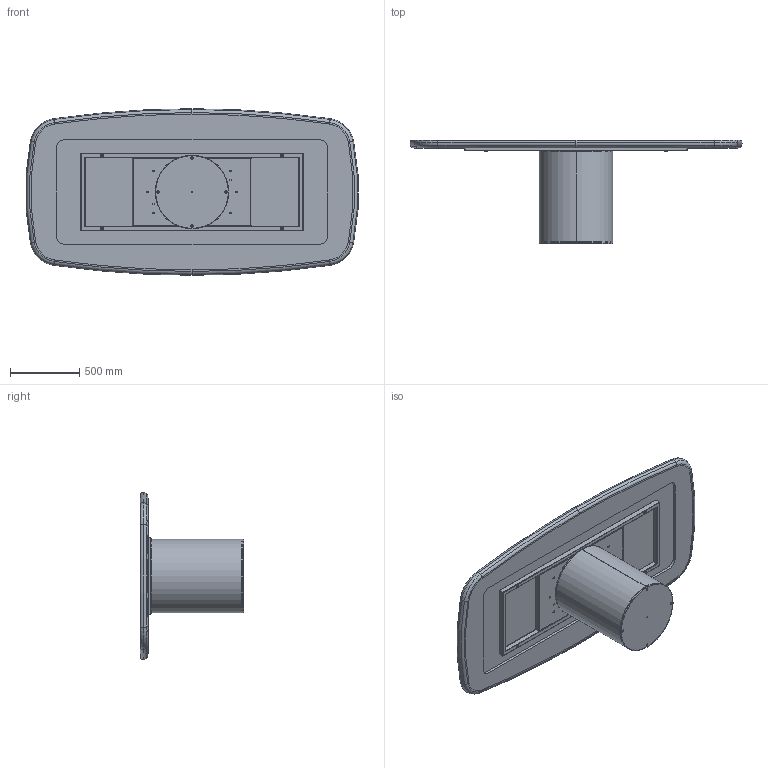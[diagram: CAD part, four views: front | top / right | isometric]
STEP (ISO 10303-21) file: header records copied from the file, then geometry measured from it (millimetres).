
FILE_DESCRIPTION (( 'STEP AP203' ), '1' );
FILE_NAME ('CI42K_Cilindro_240x120_King.STEP', '2024-07-31T13:14:52', ( '' ), ( '' ), 'SwSTEP 2.0', 'SolidWorks 2022', '' );
FILE_SCHEMA (( 'CONFIG_CONTROL_DESIGN' ));
Length unit declared in the file: millimetre
Products named in the file (14): M8xXXmm_hex_M8X20mm; C2B000000-03-CILINDRO BASE D.530mm_Normale; K50-00-PIANO SOLO CERAMICA 236,7x116,7cm sag; C2B000000_01-00-struttura cilindro D.530mm; W50-01-PIANO KING BORDO 240x120 SAGOMATO LACCATO; COLLO TELAIO UNIVERSALE TTAV01 CON FERRAMENTA_MTG TOP LEGNO-MARMO-KING; TTAV01_02-05-VASSOIO IRRIGIDIMENTO TELAIO UNIVERSALE; rondella M8_8X24; TTAV01-05-TELAIO UNIVERSALE X TAVOLI 180 240cm; CI42K_Cilindro_240x120_King; ASSIEME PIANO+CERAMICA 240X120; M8xXXmm_M8x55mm; TTAV01_01-05-TELAIO UNIVERSALE X TAVOLI 180 240cm; C2B000000_02-01-ZAVORRA IN FERRO D.530mm
Assembly tree (22 placements, depth 4):
  CI42K_Cilindro_240x120_King
    C2B000000-03-CILINDRO BASE D.530mm_Normale
      C2B000000_01-00-struttura cilindro D.530mm
      C2B000000_02-01-ZAVORRA IN FERRO D.530mm
      M8xXXmm_hex_M8X20mm  x4
    COLLO TELAIO UNIVERSALE TTAV01 CON FERRAMENTA_MTG TOP LEGNO-MARMO-KING
      TTAV01-05-TELAIO UNIVERSALE X TAVOLI 180 240cm
        TTAV01_02-05-VASSOIO IRRIGIDIMENTO TELAIO UNIVERSALE
        TTAV01_01-05-TELAIO UNIVERSALE X TAVOLI 180 240cm
      rondella M8_8X24  x4
      M8xXXmm_M8x55mm  x4
    ASSIEME PIANO+CERAMICA 240X120
      K50-00-PIANO SOLO CERAMICA 236,7x116,7cm sag
      W50-01-PIANO KING BORDO 240x120 SAGOMATO LACCATO
Bounding box: 2391.93 x 746 x 1200 mm (x, y, z)
Volume: 124931056.9 mm3; surface area: 15934848.8 mm2
Topology: 21 solids, 21 shells, 781 faces, 1820 edges, 1060 vertices
Faces by surface type: plane 308, cylinder 261, torus 106, cone 84, sphere 22
Entity records: 17619 total; most frequent: DIRECTION 2995, CARTESIAN_POINT 2729, ORIENTED_EDGE 2576, EDGE_CURVE 1288, AXIS2_PLACEMENT_3D 1167, VERTEX_POINT 783, EDGE_LOOP 663, LINE 661
